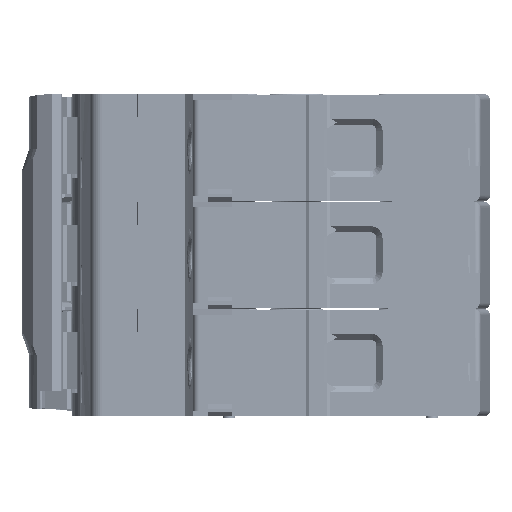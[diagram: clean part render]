
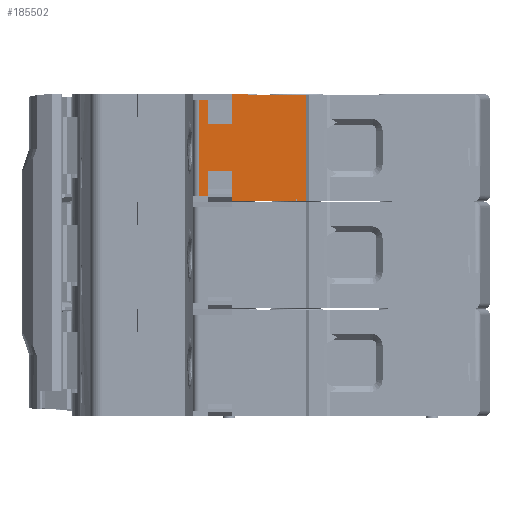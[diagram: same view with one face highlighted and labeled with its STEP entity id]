
A CAD part, left-side view. The second image highlights one B-rep face of the part: STEP entity #185502.
In plain terms, the highlighted planar face has unit normal (-1, 0, 0).
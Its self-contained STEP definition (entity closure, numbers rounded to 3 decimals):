
#19148=DIRECTION('',(0.,1.,0.));
#19149=VECTOR('',#19148,9.149);
#19150=CARTESIAN_POINT('',(4.829,41.295,
-0.16));
#19151=LINE('',#19150,#19149);
#20734=CARTESIAN_POINT('',(4.829,50.445,
-0.16));
#20735=CARTESIAN_POINT('',(4.829,50.486,
-0.149));
#20736=CARTESIAN_POINT('',(4.829,50.57,
-0.127));
#20737=CARTESIAN_POINT('',(4.829,50.699,
-0.097));
#20738=CARTESIAN_POINT('',(4.829,50.828,
-0.071));
#20739=CARTESIAN_POINT('',(4.829,50.957,
-0.049));
#20740=CARTESIAN_POINT('',(4.829,51.088,
-0.032));
#20741=CARTESIAN_POINT('',(4.829,51.218,
-0.019));
#20742=CARTESIAN_POINT('',(4.829,51.347,
-0.012));
#20743=CARTESIAN_POINT('',(4.829,51.433,
-0.01));
#20744=CARTESIAN_POINT('',(4.829,51.476,
-0.01));
#31559=DIRECTION('',(0.,-1.,0.));
#31560=VECTOR('',#31559,1.396);
#31561=CARTESIAN_POINT('',(4.829,58.872,
-16.76));
#31562=LINE('',#31561,#31560);
#31572=DIRECTION('',(0.,0.,-1.));
#31573=VECTOR('',#31572,15.8);
#31574=CARTESIAN_POINT('',(4.829,58.872,
-0.96));
#31575=LINE('',#31574,#31573);
#31576=DIRECTION('',(0.,1.,0.));
#31577=VECTOR('',#31576,1.39);
#31578=CARTESIAN_POINT('',(4.829,41.295,
-17.56));
#31579=LINE('',#31578,#31577);
#31580=DIRECTION('',(0.,0.,1.));
#31581=VECTOR('',#31580,0.2);
#31582=CARTESIAN_POINT('',(4.829,42.686,
-17.56));
#31583=LINE('',#31582,#31581);
#31584=DIRECTION('',(0.,1.,0.));
#31585=VECTOR('',#31584,0.19);
#31586=CARTESIAN_POINT('',(4.829,42.686,
-17.36));
#31587=LINE('',#31586,#31585);
#31588=DIRECTION('',(0.,1.,0.));
#31589=VECTOR('',#31588,8.6);
#31590=CARTESIAN_POINT('',(4.829,42.876,
-17.56));
#31591=LINE('',#31590,#31589);
#31592=DIRECTION('',(0.,1.,0.));
#31593=VECTOR('',#31592,2.);
#31594=CARTESIAN_POINT('',(4.829,51.476,
-17.56));
#31595=LINE('',#31594,#31593);
#31596=DIRECTION('',(0.,0.,1.));
#31597=VECTOR('',#31596,4.85);
#31598=CARTESIAN_POINT('',(4.829,53.476,
-17.56));
#31599=LINE('',#31598,#31597);
#31600=DIRECTION('',(0.,1.,0.));
#31601=VECTOR('',#31600,4.);
#31602=CARTESIAN_POINT('',(4.829,53.476,
-12.71));
#31603=LINE('',#31602,#31601);
#31604=DIRECTION('',(0.,-1.,0.));
#31605=VECTOR('',#31604,1.396);
#31606=CARTESIAN_POINT('',(4.829,58.872,
-0.96));
#31607=LINE('',#31606,#31605);
#31608=DIRECTION('',(0.,0.,-1.));
#31609=VECTOR('',#31608,4.05);
#31610=CARTESIAN_POINT('',(4.829,57.476,
-0.96));
#31611=LINE('',#31610,#31609);
#31612=DIRECTION('',(0.,-1.,0.));
#31613=VECTOR('',#31612,1.975);
#31614=CARTESIAN_POINT('',(4.829,53.451,
-0.01));
#31615=LINE('',#31614,#31613);
#31620=DIRECTION('',(0.,0.,1.));
#31621=VECTOR('',#31620,17.4);
#31622=CARTESIAN_POINT('',(4.829,41.295,
-17.56));
#31623=LINE('',#31622,#31621);
#39675=DIRECTION('',(0.,0.,1.));
#39676=VECTOR('',#39675,0.2);
#39677=CARTESIAN_POINT('',(4.829,42.876,
-17.56));
#39678=LINE('',#39677,#39676);
#52557=DIRECTION('',(0.,0.,1.));
#52558=VECTOR('',#52557,4.05);
#52559=CARTESIAN_POINT('',(4.829,57.476,
-16.76));
#52560=LINE('',#52559,#52558);
#53443=DIRECTION('',(0.,0.,-1.));
#53444=VECTOR('',#53443,5.);
#53445=CARTESIAN_POINT('',(4.829,53.451,
-0.01));
#53446=LINE('',#53445,#53444);
#53451=DIRECTION('',(0.,1.,0.));
#53452=VECTOR('',#53451,4.025);
#53453=CARTESIAN_POINT('',(4.829,53.451,
-5.01));
#53454=LINE('',#53453,#53452);
#119541=CARTESIAN_POINT('',(4.829,50.445,
-0.16));
#119543=VERTEX_POINT('',#119541);
#119593=CARTESIAN_POINT('',(4.829,41.295,
-0.16));
#119594=VERTEX_POINT('',#119593);
#120164=CARTESIAN_POINT('',(4.829,51.476,
-0.01));
#120166=VERTEX_POINT('',#120164);
#120185=CARTESIAN_POINT('',(4.829,53.451,
-0.01));
#120186=VERTEX_POINT('',#120185);
#121392=CARTESIAN_POINT('',(4.829,53.451,
-5.01));
#121393=CARTESIAN_POINT('',(4.829,57.476,
-5.01));
#121394=VERTEX_POINT('',#121392);
#121395=VERTEX_POINT('',#121393);
#121398=CARTESIAN_POINT('',(4.829,58.872,
-0.96));
#121399=CARTESIAN_POINT('',(4.829,57.476,
-0.96));
#121400=VERTEX_POINT('',#121398);
#121401=VERTEX_POINT('',#121399);
#123765=CARTESIAN_POINT('',(4.829,42.686,
-17.56));
#123766=VERTEX_POINT('',#123765);
#123767=CARTESIAN_POINT('',(4.829,41.295,
-17.56));
#123768=VERTEX_POINT('',#123767);
#123897=CARTESIAN_POINT('',(4.829,51.476,
-17.56));
#123898=VERTEX_POINT('',#123897);
#123899=CARTESIAN_POINT('',(4.829,42.876,
-17.56));
#123900=VERTEX_POINT('',#123899);
#124590=CARTESIAN_POINT('',(4.829,42.686,
-17.36));
#124592=VERTEX_POINT('',#124590);
#124639=CARTESIAN_POINT('',(4.829,42.876,
-17.36));
#124640=VERTEX_POINT('',#124639);
#124723=CARTESIAN_POINT('',(4.829,53.476,
-17.56));
#124724=VERTEX_POINT('',#124723);
#124725=CARTESIAN_POINT('',(4.829,53.476,
-12.71));
#124726=VERTEX_POINT('',#124725);
#124727=CARTESIAN_POINT('',(4.829,57.476,
-12.71));
#124728=VERTEX_POINT('',#124727);
#124729=CARTESIAN_POINT('',(4.829,57.476,
-16.76));
#124730=VERTEX_POINT('',#124729);
#124731=CARTESIAN_POINT('',(4.829,58.872,
-16.76));
#124732=VERTEX_POINT('',#124731);
#185464=CARTESIAN_POINT('',(4.829,59.772,
-1.66));
#185465=DIRECTION('',(-1.,0.,0.));
#185466=DIRECTION('',(0.,-1.,0.));
#185467=AXIS2_PLACEMENT_3D('',#185464,#185465,#185466);
#185468=PLANE('',#185467);
#185470=ORIENTED_EDGE('',*,*,#185469,.F.);
#185472=ORIENTED_EDGE('',*,*,#185471,.T.);
#185474=ORIENTED_EDGE('',*,*,#185473,.T.);
#185476=ORIENTED_EDGE('',*,*,#185475,.T.);
#185478=ORIENTED_EDGE('',*,*,#185477,.F.);
#185480=ORIENTED_EDGE('',*,*,#185479,.T.);
#185481=ORIENTED_EDGE('',*,*,#183867,.T.);
#185482=ORIENTED_EDGE('',*,*,#185382,.T.);
#185484=ORIENTED_EDGE('',*,*,#185483,.T.);
#185486=ORIENTED_EDGE('',*,*,#185485,.F.);
#185487=ORIENTED_EDGE('',*,*,#185441,.F.);
#185488=ORIENTED_EDGE('',*,*,#185455,.F.);
#185490=ORIENTED_EDGE('',*,*,#185489,.T.);
#185492=ORIENTED_EDGE('',*,*,#185491,.T.);
#185494=ORIENTED_EDGE('',*,*,#185493,.F.);
#185496=ORIENTED_EDGE('',*,*,#185495,.F.);
#185497=ORIENTED_EDGE('',*,*,#173678,.T.);
#185498=ORIENTED_EDGE('',*,*,#173638,.F.);
#185499=ORIENTED_EDGE('',*,*,#172859,.F.);
#185500=EDGE_LOOP('',(#185470,#185472,#185474,#185476,#185478,#185480,#185481,
#185482,#185484,#185486,#185487,#185488,#185490,#185492,#185494,#185496,#185497,
#185498,#185499));
#185501=FACE_OUTER_BOUND('',#185500,.F.);
#185502=ADVANCED_FACE('',(#185501),#185468,.T.);
#20745=B_SPLINE_CURVE_WITH_KNOTS('',3,(#20734,#20735,#20736,#20737,#20738,
#20739,#20740,#20741,#20742,#20743,#20744),.UNSPECIFIED.,.F.,.F.,(4,1,1,1,1,1,1,
1,4),(0.,0.125,0.25,0.375,0.5,0.625,0.75,0.875,1.),
.UNSPECIFIED.);
#172859=EDGE_CURVE('',#119594,#119543,#19151,.T.);
#173638=EDGE_CURVE('',#119543,#120166,#20745,.T.);
#173678=EDGE_CURVE('',#120186,#120166,#31615,.T.);
#183867=EDGE_CURVE('',#123898,#124724,#31595,.T.);
#185382=EDGE_CURVE('',#124724,#124726,#31599,.T.);
#185441=EDGE_CURVE('',#124732,#124730,#31562,.T.);
#185455=EDGE_CURVE('',#121400,#124732,#31575,.T.);
#185469=EDGE_CURVE('',#123768,#119594,#31623,.T.);
#185471=EDGE_CURVE('',#123768,#123766,#31579,.T.);
#185473=EDGE_CURVE('',#123766,#124592,#31583,.T.);
#185475=EDGE_CURVE('',#124592,#124640,#31587,.T.);
#185477=EDGE_CURVE('',#123900,#124640,#39678,.T.);
#185479=EDGE_CURVE('',#123900,#123898,#31591,.T.);
#185483=EDGE_CURVE('',#124726,#124728,#31603,.T.);
#185485=EDGE_CURVE('',#124730,#124728,#52560,.T.);
#185489=EDGE_CURVE('',#121400,#121401,#31607,.T.);
#185491=EDGE_CURVE('',#121401,#121395,#31611,.T.);
#185493=EDGE_CURVE('',#121394,#121395,#53454,.T.);
#185495=EDGE_CURVE('',#120186,#121394,#53446,.T.);
